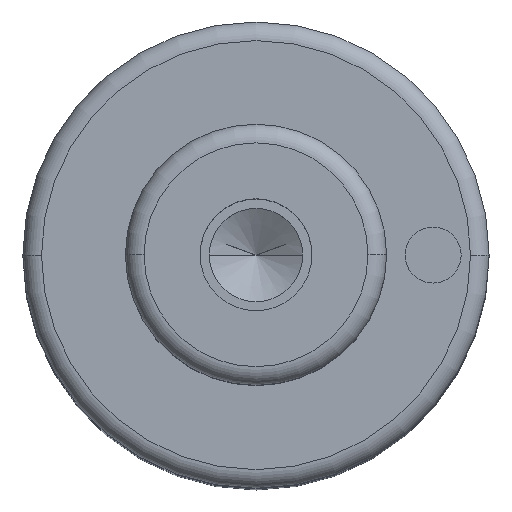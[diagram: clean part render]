
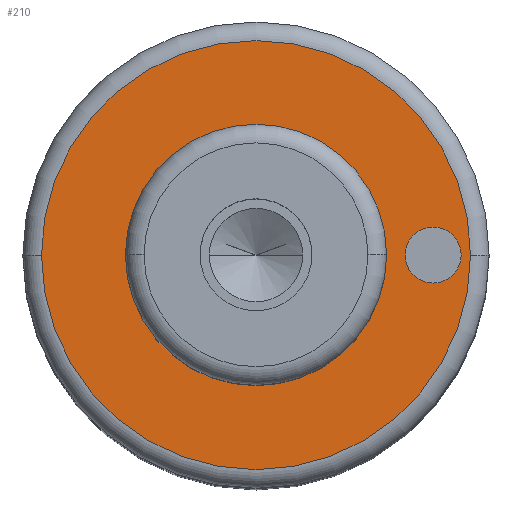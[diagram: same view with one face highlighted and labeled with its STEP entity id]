
A CAD part, top view. The second image highlights one B-rep face of the part: STEP entity #210.
In plain terms, the highlighted planar face has unit normal (0, 0, 1).
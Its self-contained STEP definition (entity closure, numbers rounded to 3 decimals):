
#99=PLANE('',#660);
#107=FACE_BOUND('',#285,.T.);
#108=FACE_BOUND('',#286,.T.);
#109=FACE_BOUND('',#287,.T.);
#210=ADVANCED_FACE('',(#107,#108,#109),#99,.T.);
#285=EDGE_LOOP('',(#395,#396));
#286=EDGE_LOOP('',(#397,#398));
#287=EDGE_LOOP('',(#399,#400));
#395=ORIENTED_EDGE('',*,*,#500,.F.);
#396=ORIENTED_EDGE('',*,*,#501,.F.);
#397=ORIENTED_EDGE('',*,*,#533,.F.);
#398=ORIENTED_EDGE('',*,*,#534,.F.);
#399=ORIENTED_EDGE('',*,*,#496,.T.);
#400=ORIENTED_EDGE('',*,*,#494,.T.);
#447=VERTEX_POINT('',#894);
#448=VERTEX_POINT('',#896);
#449=VERTEX_POINT('',#902);
#452=VERTEX_POINT('',#907);
#470=VERTEX_POINT('',#977);
#471=VERTEX_POINT('',#978);
#494=EDGE_CURVE('',#448,#447,#561,.T.);
#496=EDGE_CURVE('',#447,#448,#562,.T.);
#500=EDGE_CURVE('',#452,#449,#566,.T.);
#501=EDGE_CURVE('',#449,#452,#567,.T.);
#533=EDGE_CURVE('',#470,#471,#587,.T.);
#534=EDGE_CURVE('',#471,#470,#588,.T.);
#561=CIRCLE('',#612,7.);
#562=CIRCLE('',#614,7.);
#566=CIRCLE('',#619,11.5);
#567=CIRCLE('',#621,11.5);
#587=CIRCLE('',#658,1.5);
#588=CIRCLE('',#659,1.5);
#612=AXIS2_PLACEMENT_3D('',#895,#711,#712);
#614=AXIS2_PLACEMENT_3D('',#899,#716,#717);
#619=AXIS2_PLACEMENT_3D('',#908,#726,#727);
#621=AXIS2_PLACEMENT_3D('',#910,#730,#731);
#658=AXIS2_PLACEMENT_3D('',#976,#816,#817);
#659=AXIS2_PLACEMENT_3D('',#979,#818,#819);
#660=AXIS2_PLACEMENT_3D('',#980,#820,#821);
#711=DIRECTION('',(0.,0.,-1.));
#712=DIRECTION('',(0.,1.,0.));
#716=DIRECTION('',(0.,0.,-1.));
#717=DIRECTION('',(0.,-1.,0.));
#726=DIRECTION('',(0.,0.,-1.));
#727=DIRECTION('',(0.,1.,0.));
#730=DIRECTION('',(0.,0.,-1.));
#731=DIRECTION('',(0.,-1.,0.));
#816=DIRECTION('',(0.,0.,1.));
#817=DIRECTION('',(0.,1.,0.));
#818=DIRECTION('',(0.,0.,1.));
#819=DIRECTION('',(0.,-1.,0.));
#820=DIRECTION('',(0.,0.,1.));
#821=DIRECTION('',(0.,-1.,0.));
#894=CARTESIAN_POINT('',(-7.,0.,54.));
#895=CARTESIAN_POINT('',(0.,0.,54.));
#896=CARTESIAN_POINT('',(7.,0.,54.));
#899=CARTESIAN_POINT('',(0.,0.,54.));
#902=CARTESIAN_POINT('',(-11.5,0.,54.));
#907=CARTESIAN_POINT('',(11.5,0.,54.));
#908=CARTESIAN_POINT('',(0.,0.,54.));
#910=CARTESIAN_POINT('',(0.,0.,54.));
#976=CARTESIAN_POINT('',(9.5,0.,54.));
#977=CARTESIAN_POINT('',(8.,0.,54.));
#978=CARTESIAN_POINT('',(11.,0.,54.));
#979=CARTESIAN_POINT('',(9.5,0.,54.));
#980=CARTESIAN_POINT('',(0.,0.,54.));
